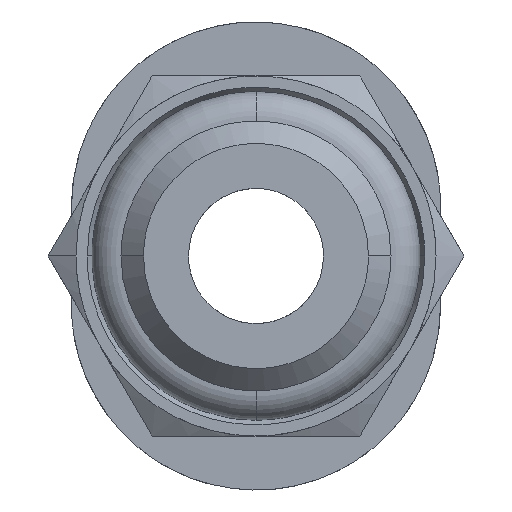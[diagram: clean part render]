
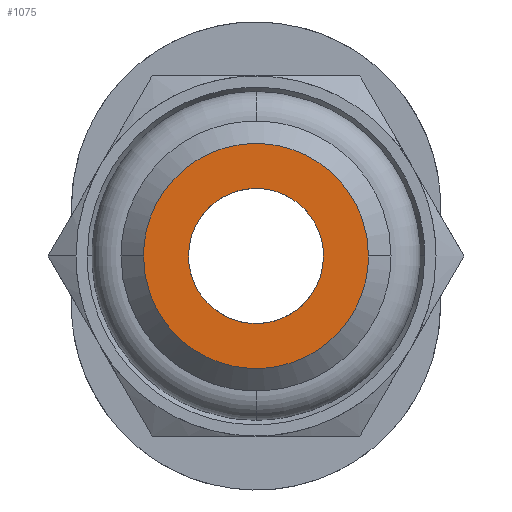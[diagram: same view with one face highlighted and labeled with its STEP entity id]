
A CAD part, front view. The second image highlights one B-rep face of the part: STEP entity #1075.
In plain terms, the highlighted planar face has unit normal (0, -1, 0).
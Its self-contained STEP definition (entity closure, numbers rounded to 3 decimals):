
#1 = CARTESIAN_POINT ( 'NONE',  ( -1.25, 0., 0. ) ) ;
#80 = CARTESIAN_POINT ( 'NONE',  ( 1.5, 0., 0.199 ) ) ;
#95 = CARTESIAN_POINT ( 'NONE',  ( 1.462, 0., 0.391 ) ) ;
#110 = CARTESIAN_POINT ( 'NONE',  ( 2.002, 0., 1.534 ) ) ;
#122 = EDGE_LOOP ( 'NONE', ( #1973, #2776 ) ) ;
#154 = CARTESIAN_POINT ( 'NONE',  ( -2.002, 0., -1.534 ) ) ;
#162 = AXIS2_PLACEMENT_3D ( 'NONE', #1, #2088, #2571 ) ;
#211 = VERTEX_POINT ( 'NONE', #692 ) ;
#307 = CARTESIAN_POINT ( 'NONE',  ( 2.5, 0., 0. ) ) ;
#317 = CARTESIAN_POINT ( 'NONE',  ( -0.92, 0., 1.201 ) ) ;
#323 = CARTESIAN_POINT ( 'NONE',  ( -2.5, 0., 0.332 ) ) ;
#353 = CARTESIAN_POINT ( 'NONE',  ( 0.391, 0., -1.462 ) ) ;
#386 = CARTESIAN_POINT ( 'NONE',  ( -1.263, 0., 2.183 ) ) ;
#414 = CARTESIAN_POINT ( 'NONE',  ( -1.5, 0., 0. ) ) ;
#420 = CARTESIAN_POINT ( 'NONE',  ( -2.436, 0., -0.651 ) ) ;
#455 = CARTESIAN_POINT ( 'NONE',  ( -0.651, 0., -2.436 ) ) ;
#576 = CARTESIAN_POINT ( 'NONE',  ( -2.183, 0., 1.263 ) ) ;
#594 = CARTESIAN_POINT ( 'NONE',  ( 2.5, 0., 0. ) ) ;
#603 = CARTESIAN_POINT ( 'NONE',  ( 1.201, 0., -0.92 ) ) ;
#638 = CARTESIAN_POINT ( 'NONE',  ( 2.436, 0., -0.651 ) ) ;
#663 = CARTESIAN_POINT ( 'NONE',  ( -0.92, 0., -1.201 ) ) ;
#679 = CARTESIAN_POINT ( 'NONE',  ( -1.31, 0., -0.758 ) ) ;
#692 = CARTESIAN_POINT ( 'NONE',  ( 1.5, 0., 0. ) ) ;
#704 = EDGE_CURVE ( 'NONE', #1361, #211, #2581, .T. ) ;
#775 = PLANE ( 'NONE',  #162 ) ;
#790 = EDGE_CURVE ( 'NONE', #1121, #2291, #1064, .T. ) ;
#822 = CARTESIAN_POINT ( 'NONE',  ( -1.534, 0., 2.002 ) ) ;
#838 = CARTESIAN_POINT ( 'NONE',  ( 0.391, 0., 1.462 ) ) ;
#849 = CARTESIAN_POINT ( 'NONE',  ( -1.201, 0., 0.92 ) ) ;
#851 = CARTESIAN_POINT ( 'NONE',  ( 1.5, 0., -0.199 ) ) ;
#875 = CARTESIAN_POINT ( 'NONE',  ( -1.201, 0., -0.92 ) ) ;
#898 = CARTESIAN_POINT ( 'NONE',  ( -0.331, 0., -2.5 ) ) ;
#933 = CARTESIAN_POINT ( 'NONE',  ( 2.183, 0., -1.263 ) ) ;
#946 = CARTESIAN_POINT ( 'NONE',  ( 0.199, 0., -1.5 ) ) ;
#1064 = B_SPLINE_CURVE_WITH_KNOTS ( 'NONE', 3,
 ( #594, #1362, #2134, #3147, #110, #1143, #3175, #2928, #2616, #1662, #2429, #386, #822, #2869, #576, #1598, #323, #1343 ),
 .UNSPECIFIED., .F., .F.,
 ( 4, 2, 2, 2, 2, 2, 2, 2, 4 ),
 ( 0.5, 0.563, 0.625, 0.688, 0.75, 0.813, 0.875, 0.938, 1. ),
 .UNSPECIFIED. ) ;
#1073 = CARTESIAN_POINT ( 'NONE',  ( -0.757, 0., 1.31 ) ) ;
#1075 = ADVANCED_FACE ( 'NONE', ( #1601, #3069 ), #775, .T. ) ;
#1121 = VERTEX_POINT ( 'NONE', #307 ) ;
#1128 = CARTESIAN_POINT ( 'NONE',  ( -0.199, 0., 1.5 ) ) ;
#1143 = CARTESIAN_POINT ( 'NONE',  ( 1.534, 0., 2.002 ) ) ;
#1157 = CARTESIAN_POINT ( 'NONE',  ( -0.391, 0., 1.462 ) ) ;
#1158 = CARTESIAN_POINT ( 'NONE',  ( -2.5, 0., -0.331 ) ) ;
#1188 = CARTESIAN_POINT ( 'NONE',  ( 0.651, 0., -2.436 ) ) ;
#1343 = CARTESIAN_POINT ( 'NONE',  ( -2.5, 0., 0. ) ) ;
#1356 = CARTESIAN_POINT ( 'NONE',  ( -1.5, 0., 0. ) ) ;
#1361 = VERTEX_POINT ( 'NONE', #1512 ) ;
#1362 = CARTESIAN_POINT ( 'NONE',  ( 2.5, 0., 0.331 ) ) ;
#1364 = CARTESIAN_POINT ( 'NONE',  ( -2.5, 0., 0. ) ) ;
#1376 = CARTESIAN_POINT ( 'NONE',  ( 0.199, 0., 1.5 ) ) ;
#1472 = CARTESIAN_POINT ( 'NONE',  ( -2.183, 0., -1.263 ) ) ;
#1512 = CARTESIAN_POINT ( 'NONE',  ( -1.5, 0., 0. ) ) ;
#1598 = CARTESIAN_POINT ( 'NONE',  ( -2.437, 0., 0.651 ) ) ;
#1601 = FACE_BOUND ( 'NONE', #2674, .T. ) ;
#1629 = CARTESIAN_POINT ( 'NONE',  ( 0.92, 0., -1.201 ) ) ;
#1662 = CARTESIAN_POINT ( 'NONE',  ( -0.331, 0., 2.5 ) ) ;
#1663 = CARTESIAN_POINT ( 'NONE',  ( 2.5, 0., -0.331 ) ) ;
#1862 = CARTESIAN_POINT ( 'NONE',  ( 1.201, 0., 0.92 ) ) ;
#1874 = CARTESIAN_POINT ( 'NONE',  ( 1.462, 0., -0.391 ) ) ;
#1955 = CARTESIAN_POINT ( 'NONE',  ( -0.391, 0., -1.462 ) ) ;
#1973 = ORIENTED_EDGE ( 'NONE', *, *, #2392, .T. ) ;
#2088 = DIRECTION ( 'NONE',  ( 0., -1., 0. ) ) ;
#2099 = CARTESIAN_POINT ( 'NONE',  ( -1.31, 0., 0.757 ) ) ;
#2129 = CARTESIAN_POINT ( 'NONE',  ( -1.462, 0., 0.391 ) ) ;
#2134 = CARTESIAN_POINT ( 'NONE',  ( 2.436, 0., 0.651 ) ) ;
#2142 = ORIENTED_EDGE ( 'NONE', *, *, #704, .T. ) ;
#2189 = CARTESIAN_POINT ( 'NONE',  ( -0.199, 0., -1.5 ) ) ;
#2211 = CARTESIAN_POINT ( 'NONE',  ( 0.331, 0., -2.5 ) ) ;
#2291 = VERTEX_POINT ( 'NONE', #1364 ) ;
#2387 = CARTESIAN_POINT ( 'NONE',  ( 0.92, 0., 1.201 ) ) ;
#2392 = EDGE_CURVE ( 'NONE', #2291, #1121, #2954, .T. ) ;
#2429 = CARTESIAN_POINT ( 'NONE',  ( -0.651, 0., 2.436 ) ) ;
#2430 = CARTESIAN_POINT ( 'NONE',  ( 2.002, 0., -1.534 ) ) ;
#2477 = CARTESIAN_POINT ( 'NONE',  ( -2.5, 0., 0. ) ) ;
#2571 = DIRECTION ( 'NONE',  ( 0., 0., -1. ) ) ;
#2581 = B_SPLINE_CURVE_WITH_KNOTS ( 'NONE', 3,
 ( #1356, #2628, #2129, #2099, #849, #317, #1073, #1157, #1128, #1376, #838, #2634, #2387, #1862, #2913, #95, #80, #2677 ),
 .UNSPECIFIED., .F., .F.,
 ( 4, 2, 2, 2, 2, 2, 2, 2, 4 ),
 ( 0., 0.063, 0.125, 0.188, 0.25, 0.313, 0.375, 0.438, 0.5 ),
 .UNSPECIFIED. ) ;
#2607 = EDGE_CURVE ( 'NONE', #211, #1361, #3036, .T. ) ;
#2616 = CARTESIAN_POINT ( 'NONE',  ( 0.331, 0., 2.5 ) ) ;
#2628 = CARTESIAN_POINT ( 'NONE',  ( -1.5, 0., 0.199 ) ) ;
#2634 = CARTESIAN_POINT ( 'NONE',  ( 0.757, 0., 1.31 ) ) ;
#2644 = CARTESIAN_POINT ( 'NONE',  ( 0.757, 0., -1.31 ) ) ;
#2674 = EDGE_LOOP ( 'NONE', ( #2142, #2839 ) ) ;
#2677 = CARTESIAN_POINT ( 'NONE',  ( 1.5, 0., 0. ) ) ;
#2686 = CARTESIAN_POINT ( 'NONE',  ( -1.462, 0., -0.39 ) ) ;
#2776 = ORIENTED_EDGE ( 'NONE', *, *, #790, .T. ) ;
#2839 = ORIENTED_EDGE ( 'NONE', *, *, #2607, .T. ) ;
#2869 = CARTESIAN_POINT ( 'NONE',  ( -2.002, 0., 1.534 ) ) ;
#2897 = CARTESIAN_POINT ( 'NONE',  ( 1.31, 0., -0.757 ) ) ;
#2913 = CARTESIAN_POINT ( 'NONE',  ( 1.31, 0., 0.757 ) ) ;
#2928 = CARTESIAN_POINT ( 'NONE',  ( 0.651, 0., 2.436 ) ) ;
#2929 = CARTESIAN_POINT ( 'NONE',  ( 1.263, 0., -2.183 ) ) ;
#2954 = B_SPLINE_CURVE_WITH_KNOTS ( 'NONE', 3,
 ( #2477, #1158, #420, #1472, #154, #3240, #3191, #455, #898, #2211, #1188, #2929, #3221, #2430, #933, #638, #1663, #2976 ),
 .UNSPECIFIED., .F., .F.,
 ( 4, 2, 2, 2, 2, 2, 2, 2, 4 ),
 ( 0., 0.063, 0.125, 0.188, 0.25, 0.313, 0.375, 0.438, 0.5 ),
 .UNSPECIFIED. ) ;
#2976 = CARTESIAN_POINT ( 'NONE',  ( 2.5, 0., 0. ) ) ;
#3036 = B_SPLINE_CURVE_WITH_KNOTS ( 'NONE', 3,
 ( #3109, #851, #1874, #2897, #603, #1629, #2644, #353, #946, #2189, #1955, #3198, #663, #875, #679, #2686, #3171, #414 ),
 .UNSPECIFIED., .F., .F.,
 ( 4, 2, 2, 2, 2, 2, 2, 2, 4 ),
 ( 0.5, 0.563, 0.625, 0.687, 0.75, 0.812, 0.875, 0.938, 1. ),
 .UNSPECIFIED. ) ;
#3069 = FACE_OUTER_BOUND ( 'NONE', #122, .T. ) ;
#3109 = CARTESIAN_POINT ( 'NONE',  ( 1.5, 0., 0. ) ) ;
#3147 = CARTESIAN_POINT ( 'NONE',  ( 2.183, 0., 1.263 ) ) ;
#3171 = CARTESIAN_POINT ( 'NONE',  ( -1.5, 0., -0.199 ) ) ;
#3175 = CARTESIAN_POINT ( 'NONE',  ( 1.263, 0., 2.183 ) ) ;
#3191 = CARTESIAN_POINT ( 'NONE',  ( -1.263, 0., -2.183 ) ) ;
#3198 = CARTESIAN_POINT ( 'NONE',  ( -0.757, 0., -1.31 ) ) ;
#3221 = CARTESIAN_POINT ( 'NONE',  ( 1.534, 0., -2.002 ) ) ;
#3240 = CARTESIAN_POINT ( 'NONE',  ( -1.534, 0., -2.002 ) ) ;
